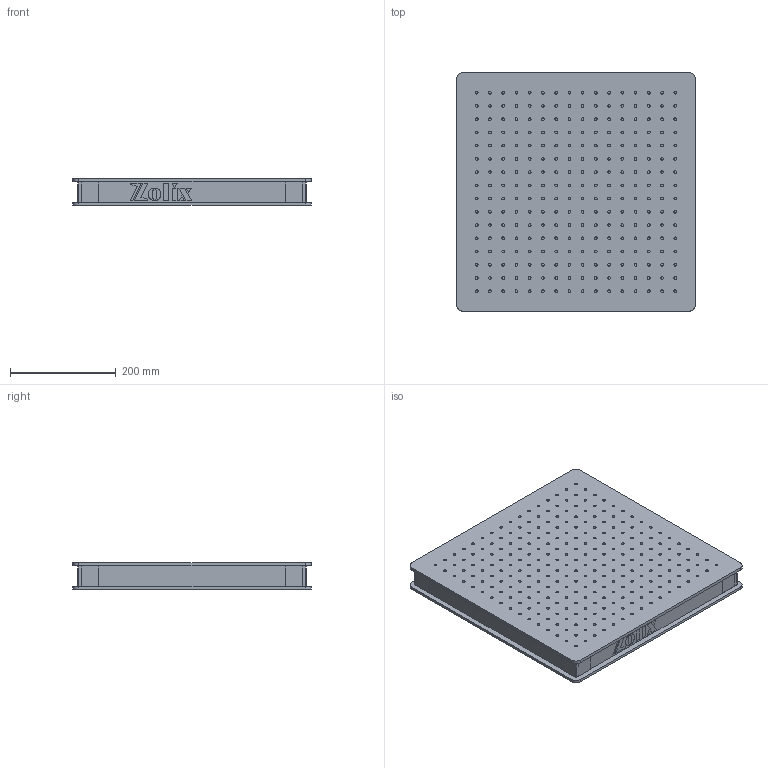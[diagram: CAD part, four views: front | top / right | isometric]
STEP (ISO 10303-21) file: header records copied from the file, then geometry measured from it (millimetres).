
FILE_DESCRIPTION (( 'STEP AP203' ), '1' );
FILE_NAME ('NTBK4545-50 铁磁不锈钢面包板 AP203.STEP', '2025-03-04T03:40:01', ( '' ), ( '' ), 'SwSTEP 2.0', 'SolidWorks 2021', '' );
FILE_SCHEMA (( 'CONFIG_CONTROL_DESIGN' ));
Length unit declared in the file: millimetre
Products named in the file (1): NTBK4545-50 铁磁不锈钢面包板 AP203
Bounding box: 450 x 450 x 50 mm (x, y, z)
Surface area: 924470.2 mm2 (no closed solid volume)
Topology: 0 solids, 30 shells, 593 faces, 1993 edges, 1432 vertices
Faces by surface type: cylinder 524, plane 69
Entity records: 23371 total; most frequent: DIRECTION 4229, CARTESIAN_POINT 4019, ORIENTED_EDGE 3612, EDGE_CURVE 1993, AXIS2_PLACEMENT_3D 1642, VERTEX_POINT 1432, EDGE_LOOP 1105, CIRCLE 1048
